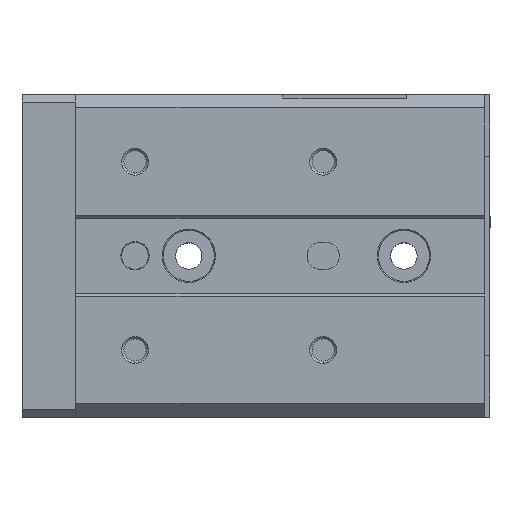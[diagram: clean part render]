
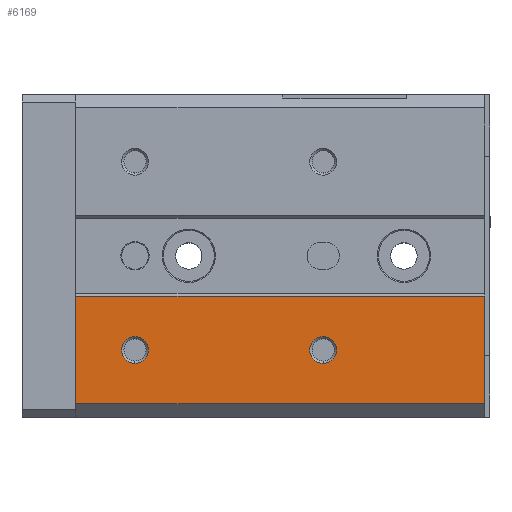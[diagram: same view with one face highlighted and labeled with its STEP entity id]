
A CAD part, top view. The second image highlights one B-rep face of the part: STEP entity #6169.
In plain terms, the highlighted planar face has unit normal (0, 0, 1).
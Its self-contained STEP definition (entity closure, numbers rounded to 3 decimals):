
#501 = DIRECTION ( 'NONE',  ( 0., 1., 0. ) ) ;
#580 = ORIENTED_EDGE ( 'NONE', *, *, #6297, .F. ) ;
#622 = CARTESIAN_POINT ( 'NONE',  ( 44., -20., 28. ) ) ;
#783 = LINE ( 'NONE', #8427, #9416 ) ;
#1054 = VERTEX_POINT ( 'NONE', #13221 ) ;
#1300 = CARTESIAN_POINT ( 'NONE',  ( 44., -17.5, 28. ) ) ;
#1328 = VERTEX_POINT ( 'NONE', #12174 ) ;
#1419 = EDGE_LOOP ( 'NONE', ( #15038, #8930 ) ) ;
#1459 = CARTESIAN_POINT ( 'NONE',  ( 74., -7.51, 28. ) ) ;
#1600 = EDGE_LOOP ( 'NONE', ( #8474, #8823, #8947, #580 ) ) ;
#1616 = CARTESIAN_POINT ( 'NONE',  ( 74., -7.51, 28. ) ) ;
#1759 = LINE ( 'NONE', #1459, #3671 ) ;
#1836 = DIRECTION ( 'NONE',  ( 0., 0., 1. ) ) ;
#1897 = ORIENTED_EDGE ( 'NONE', *, *, #13647, .F. ) ;
#2222 = DIRECTION ( 'NONE',  ( 1., 0., 0. ) ) ;
#2229 = EDGE_CURVE ( 'NONE', #7154, #1054, #2478, .T. ) ;
#2306 = VECTOR ( 'NONE', #14291, 1000. ) ;
#2478 = CIRCLE ( 'NONE', #15367, 2.5 ) ;
#2578 = VERTEX_POINT ( 'NONE', #622 ) ;
#2910 = PLANE ( 'NONE',  #11108 ) ;
#3408 = DIRECTION ( 'NONE',  ( -1., 0., 0. ) ) ;
#3671 = VECTOR ( 'NONE', #10065, 1000. ) ;
#4041 = LINE ( 'NONE', #14565, #10959 ) ;
#4483 = AXIS2_PLACEMENT_3D ( 'NONE', #15283, #1836, #11696 ) ;
#4797 = FACE_BOUND ( 'NONE', #1419, .T. ) ;
#5047 = DIRECTION ( 'NONE',  ( 0., -1., 0. ) ) ;
#5698 = EDGE_CURVE ( 'NONE', #1054, #7154, #9840, .T. ) ;
#5744 = VERTEX_POINT ( 'NONE', #9471 ) ;
#5974 = EDGE_CURVE ( 'NONE', #5744, #14679, #1759, .T. ) ;
#6120 = AXIS2_PLACEMENT_3D ( 'NONE', #1300, #11186, #5047 ) ;
#6164 = CARTESIAN_POINT ( 'NONE',  ( -2., -7.51, 28. ) ) ;
#6169 = ADVANCED_FACE ( 'NONE', ( #10014, #4797, #8843 ), #2910, .F. ) ;
#6297 = EDGE_CURVE ( 'NONE', #11115, #10282, #11962, .T. ) ;
#7079 = CARTESIAN_POINT ( 'NONE',  ( -2., -27.49, 28. ) ) ;
#7154 = VERTEX_POINT ( 'NONE', #15646 ) ;
#7235 = CARTESIAN_POINT ( 'NONE',  ( 9., -17.5, 28. ) ) ;
#8162 = DIRECTION ( 'NONE',  ( 0., 0., 1. ) ) ;
#8367 = CARTESIAN_POINT ( 'NONE',  ( 9., -17.5, 28. ) ) ;
#8427 = CARTESIAN_POINT ( 'NONE',  ( 74., -7.51, 28. ) ) ;
#8474 = ORIENTED_EDGE ( 'NONE', *, *, #9075, .F. ) ;
#8490 = DIRECTION ( 'NONE',  ( 0., -1., 0. ) ) ;
#8823 = ORIENTED_EDGE ( 'NONE', *, *, #5974, .F. ) ;
#8843 = FACE_BOUND ( 'NONE', #10192, .T. ) ;
#8930 = ORIENTED_EDGE ( 'NONE', *, *, #2229, .F. ) ;
#8947 = ORIENTED_EDGE ( 'NONE', *, *, #9094, .F. ) ;
#9075 = EDGE_CURVE ( 'NONE', #14679, #11115, #4041, .T. ) ;
#9094 = EDGE_CURVE ( 'NONE', #10282, #5744, #783, .T. ) ;
#9174 = CIRCLE ( 'NONE', #4483, 2.5 ) ;
#9416 = VECTOR ( 'NONE', #2222, 1000. ) ;
#9471 = CARTESIAN_POINT ( 'NONE',  ( 74., -7.51, 28. ) ) ;
#9840 = CIRCLE ( 'NONE', #14323, 2.5 ) ;
#9866 = CIRCLE ( 'NONE', #6120, 2.5 ) ;
#10014 = FACE_OUTER_BOUND ( 'NONE', #1600, .T. ) ;
#10065 = DIRECTION ( 'NONE',  ( 0., -1., 0. ) ) ;
#10192 = EDGE_LOOP ( 'NONE', ( #10423, #1897 ) ) ;
#10282 = VERTEX_POINT ( 'NONE', #6164 ) ;
#10423 = ORIENTED_EDGE ( 'NONE', *, *, #12199, .F. ) ;
#10762 = DIRECTION ( 'NONE',  ( 0., -1., 0. ) ) ;
#10778 = DIRECTION ( 'NONE',  ( 0., 0., 1. ) ) ;
#10959 = VECTOR ( 'NONE', #3408, 1000. ) ;
#11012 = CARTESIAN_POINT ( 'NONE',  ( 74., -27.49, 28. ) ) ;
#11108 = AXIS2_PLACEMENT_3D ( 'NONE', #1616, #13960, #501 ) ;
#11115 = VERTEX_POINT ( 'NONE', #7079 ) ;
#11186 = DIRECTION ( 'NONE',  ( 0., 0., 1. ) ) ;
#11696 = DIRECTION ( 'NONE',  ( 0., -1., 0. ) ) ;
#11856 = CARTESIAN_POINT ( 'NONE',  ( -2., -7.51, 28. ) ) ;
#11962 = LINE ( 'NONE', #11856, #2306 ) ;
#12174 = CARTESIAN_POINT ( 'NONE',  ( 44., -15., 28. ) ) ;
#12199 = EDGE_CURVE ( 'NONE', #2578, #1328, #9174, .T. ) ;
#13221 = CARTESIAN_POINT ( 'NONE',  ( 9., -20., 28. ) ) ;
#13647 = EDGE_CURVE ( 'NONE', #1328, #2578, #9866, .T. ) ;
#13960 = DIRECTION ( 'NONE',  ( 0., 0., -1. ) ) ;
#14291 = DIRECTION ( 'NONE',  ( 0., 1., 0. ) ) ;
#14323 = AXIS2_PLACEMENT_3D ( 'NONE', #8367, #8162, #10762 ) ;
#14565 = CARTESIAN_POINT ( 'NONE',  ( 74., -27.49, 28. ) ) ;
#14679 = VERTEX_POINT ( 'NONE', #11012 ) ;
#15038 = ORIENTED_EDGE ( 'NONE', *, *, #5698, .F. ) ;
#15283 = CARTESIAN_POINT ( 'NONE',  ( 44., -17.5, 28. ) ) ;
#15367 = AXIS2_PLACEMENT_3D ( 'NONE', #7235, #10778, #8490 ) ;
#15646 = CARTESIAN_POINT ( 'NONE',  ( 9., -15., 28. ) ) ;
